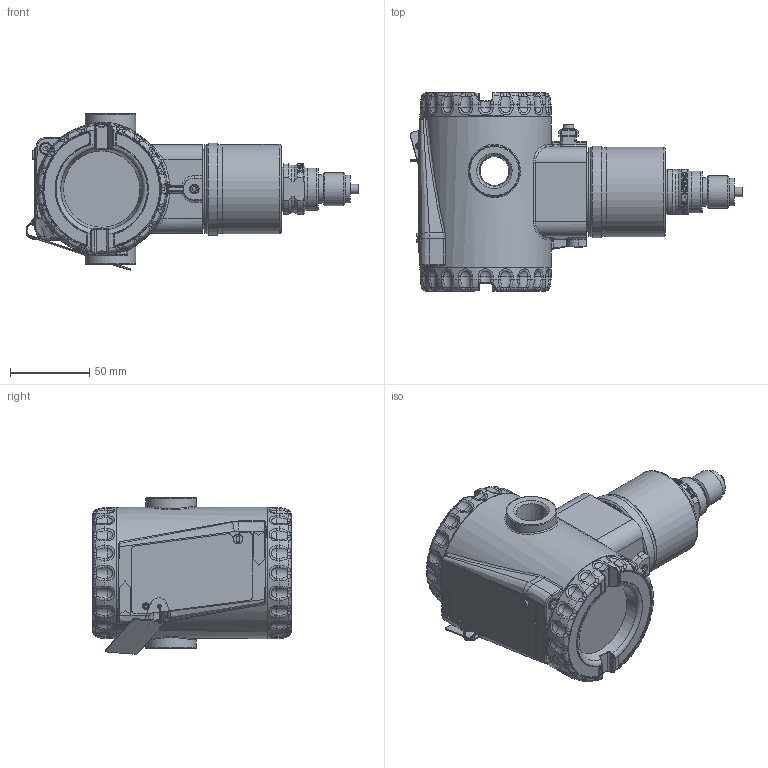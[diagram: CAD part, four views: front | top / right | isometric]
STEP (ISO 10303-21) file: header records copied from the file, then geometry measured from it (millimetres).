
FILE_DESCRIPTION(/* description */ (''),/* implementation_level */ '2;1');
FILE_NAME(/* name */ 'F:\Area\Desenvolvimento_2\Projects\Sensor\projetos\LD400-3d\dimensionais 3D clientes\LD400G\LD400G2-3 G1-2 B.stp',/* time_stamp */ '2023-02-02T16:42:57-03:00',/* author */ ('inventor02'),/* organization */ (''),/* preprocessor_version */ 'ST-DEVELOPER v17',/* originating_system */ 'Autodesk Inventor 2019',/* authorisation */ '');
FILE_SCHEMA (('CONFIG_CONTROL_DESIGN'));
Products named in the file (27): LD400G2-3 G1-2 B; SENSOR 29X FX2-3 G1-2 B; 101-B-5895-01 capa fx2-3; 101-C-3677-06 conexao ao processo 1-2NPT; 101-D-1309-04 pescoço LD29x usinado; 101-B-1610-06 conexão G1-2 B EN837-1; Carcaça 400 com tampas e plaqueta sem letras; 101-D-0845-05 carcaça LD400 sem letras; 101-B-3614-03-tampa 400 sem letras; Tampa visor 400 montada sem letras; 101-B-3612-05 tampa visor 400 sem letras; 101-A-6107; oring 2034; 00034775-0; WHW_250; DIN 915 - M6 x 10; Chapa aterramento externo; 201-A-1771-02 inserto terra recartilhado; AS 1969 - ST4,2; ISO 1207 - M4 x 8; ANSI B18.3.1M - M4x0,7 x 8; Subconjunto plaqueta 400; plaqueta 400 em branco; Parafuso da Plaqueta; Rebite da Plaqueta; 096-A-0169-03; 101-A-0502-01
Assembly tree (27 placements, depth 4):
  LD400G2-3 G1-2 B
    SENSOR 29X FX2-3 G1-2 B
      101-B-5895-01 capa fx2-3
      101-C-3677-06 conexao ao processo 1-2NPT
      101-D-1309-04 pescoço LD29x usinado
      101-B-1610-06 conexão G1-2 B EN837-1
    Carcaça 400 com tampas e plaqueta sem letras
      101-D-0845-05 carcaça LD400 sem letras
      101-B-3614-03-tampa 400 sem letras
      Tampa visor 400 montada sem letras
        101-B-3612-05 tampa visor 400 sem letras
        101-A-6107
        oring 2034
        00034775-0
        WHW_250
      DIN 915 - M6 x 10
      Chapa aterramento externo
      201-A-1771-02 inserto terra recartilhado
      AS 1969 - ST4,2
      ISO 1207 - M4 x 8
      ANSI B18.3.1M - M4x0,7 x 8  x2
      Subconjunto plaqueta 400
        plaqueta 400 em branco
        Parafuso da Plaqueta
        Rebite da Plaqueta
        096-A-0169-03
        101-A-0502-01
Bounding box: 209.55 x 125 x 98.64 mm (x, y, z)
Volume: 447263.2 mm3; surface area: 187424.7 mm2
Topology: 23 solids, 23 shells, 1961 faces, 4858 edges, 2964 vertices
Faces by surface type: plane 549, bspline 513, cylinder 440, torus 270, cone 134, sphere 55
Full cylindrical faces by diameter (mm): 2 x2, 2.1 x1, 2.2 x1, 2.459 x3, 2.7 x1, 3 x1, 3.242 x3, 3.5 x4, 3.571 x1, 4 x5, 4.3 x2, 4.4 x1, 4.917 x1, 6 x3, 6.1 x2, 6.2 x1, 7 x2, 7.6 x2, 8 x1, 17.5 x2, 18 x2, 18.3 x2, 20.8 x1, 26.5 x2, 28.399 x1, 32 x2, 32.2 x1, 34.15 x1, 35.15 x1, 35.2 x1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
Entity records: 75864 total; most frequent: CARTESIAN_POINT 30577, ORIENTED_EDGE 9548, DIRECTION 8866, EDGE_CURVE 4774, AXIS2_PLACEMENT_3D 3672, VERTEX_POINT 2935, CIRCLE 2097, EDGE_LOOP 2049
